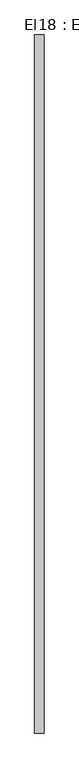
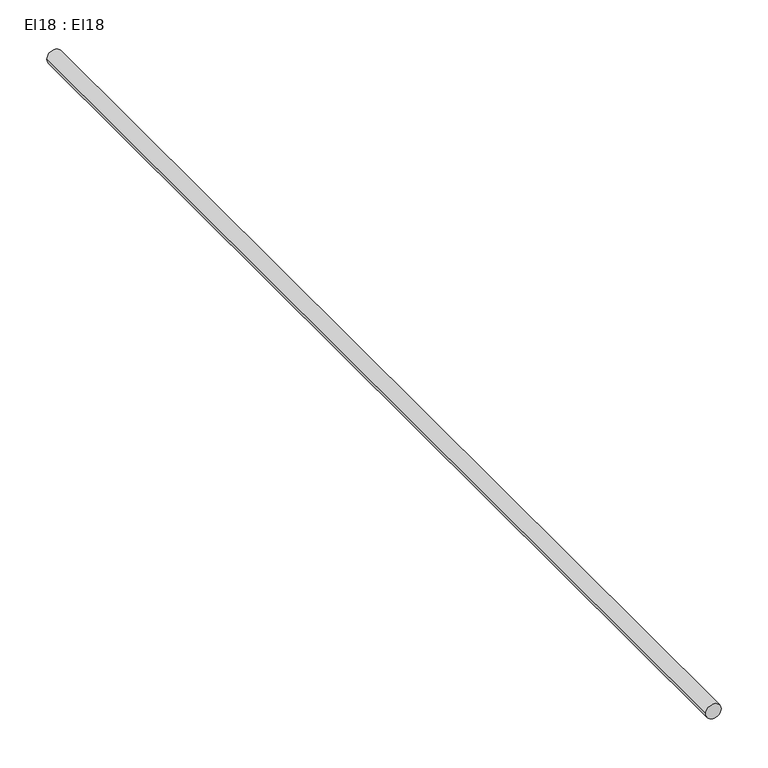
"""IFC4 building model written with IfcOpenShell, lengths in millimetres: cable carrier segment geometry, El18 : El18."""

from ifc_helpers import new_model, si_unit, point, frame, frame_2d, origin, place, context, project, spatial, circle_curve, trimmed, segment, composite_curve, outline, extrude, source, transform, mapped, element, save


def el18_el18_2cca54ee(model_context):
    return source(origin(), model_context, "Body", "SweptSolid", [
        extrude(outline(composite_curve([segment(trimmed(circle_curve(frame_2d((300.0, 6550.0)), 9.5), [point((300.0, 6540.5))], [point((300.0, 6559.5))], False, "CARTESIAN"), True, "CONTINUOUS"), segment(trimmed(circle_curve(frame_2d((300.0, 6550.0)), 9.5), [point((300.0, 6559.5))], [point((300.0, 6540.5))], False, "CARTESIAN"), True, "CONTINUOUS")], self_intersect=False)), frame((0.0, 9835.202, 0.0), z_axis=(0.0, 1.0, 0.0), x_axis=(0.0, 0.0, 1.0)), (0.0, 0.0, 1.0), 1404.8),
    ])


if __name__ == "__main__":
    model = new_model("IFC4")
    model_context = context("Model", 3, world=origin())
    ifc_project = project(units=[si_unit("LENGTHUNIT", "METRE", prefix="MILLI")], contexts=[model_context])
    site = spatial("IfcSite", under=ifc_project)
    building = spatial("IfcBuilding", under=site)
    placement = place(None, origin())
    el18_el18_shape = el18_el18_2cca54ee(model_context)
    element("IfcCableCarrierSegment", 1, ObjectType="El18 : El18", at=placement, inside=building, context=model_context, shape_type="MappedRepresentation", body=[
        mapped(el18_el18_shape, transform((0.0, 0.0, 0.0), x_axis=(1.0, 0.0, 0.0), y_axis=(0.0, 1.0, 0.0), z_axis=(0.0, 0.0, 1.0))),
    ])
    save(model, "model.ifc")
